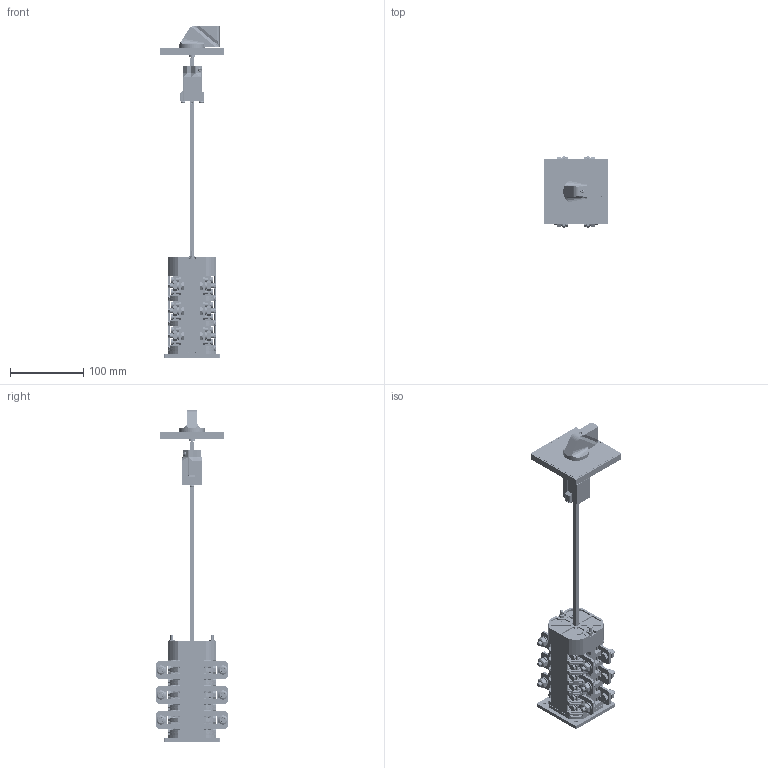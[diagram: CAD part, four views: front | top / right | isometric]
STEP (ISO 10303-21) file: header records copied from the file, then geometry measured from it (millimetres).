
FILE_DESCRIPTION (( 'STEP AP214' ), '1' );
FILE_NAME ('4G100-XXXX-OU-S7-R212,R214,S24 6ê.STEP', '2023-02-15T11:31:17', ( '' ), ( '' ), 'SwSTEP 2.0', 'SolidWorks 2018', '' );
FILE_SCHEMA (( 'AUTOMOTIVE_DESIGN' ));
Length unit declared in the file: millimetre
Products named in the file (1): 4G100-XXXX-OU-S7-R212,R214,S24 6ê
Bounding box: 88 x 99 x 452.12 mm (x, y, z)
Volume: 415641.5 mm3; surface area: 325604 mm2
Topology: 190 solids, 190 shells, 8876 faces, 22445 edges, 14080 vertices
Faces by surface type: plane 5337, cylinder 2765, cone 380, torus 279, bspline 93, sphere 22
Entity records: 417493 total; most frequent: CARTESIAN_POINT 104323, ORIENTED_EDGE 44848, DIRECTION 44290, EDGE_CURVE 22424, AXIS2_PLACEMENT_3D 14852, LINE 14586, VECTOR 14586, VERTEX_POINT 14078
